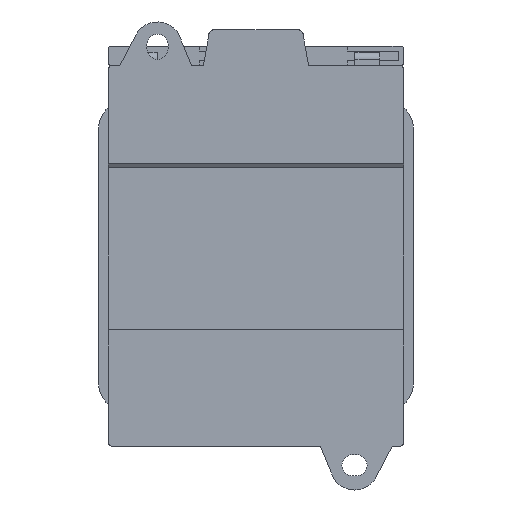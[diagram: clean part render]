
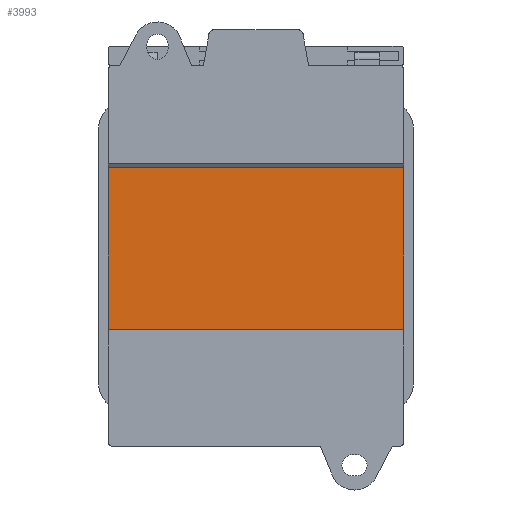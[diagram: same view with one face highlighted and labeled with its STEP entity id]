
A CAD part, front view. The second image highlights one B-rep face of the part: STEP entity #3993.
In plain terms, the highlighted planar face has unit normal (0, -1, 0).
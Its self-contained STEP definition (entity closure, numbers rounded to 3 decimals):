
#183 = CARTESIAN_POINT ( 'NONE',  ( -45., 3.997, 17.9 ) ) ;
#413 = DIRECTION ( 'NONE',  ( 0., 0., 1. ) ) ;
#1257 = DIRECTION ( 'NONE',  ( 0., 0., -1. ) ) ;
#1344 = LINE ( 'NONE', #6277, #7097 ) ;
#1358 = VERTEX_POINT ( 'NONE', #9688 ) ;
#1947 = EDGE_CURVE ( 'NONE', #1358, #9421, #13088, .T. ) ;
#2078 = CARTESIAN_POINT ( 'NONE',  ( -30., 3.997, -17.5 ) ) ;
#2843 = CARTESIAN_POINT ( 'NONE',  ( -45., 3.997, -17.5 ) ) ;
#3200 = LINE ( 'NONE', #2843, #5740 ) ;
#3387 = DIRECTION ( 'NONE',  ( 1., 0., 0. ) ) ;
#3490 = FACE_OUTER_BOUND ( 'NONE', #6907, .T. ) ;
#3993 = ADVANCED_FACE ( 'NONE', ( #3490 ), #5836, .F. ) ;
#4114 = DIRECTION ( 'NONE',  ( 0., 0., -1. ) ) ;
#4125 = VECTOR ( 'NONE', #3387, 1000. ) ;
#4262 = ORIENTED_EDGE ( 'NONE', *, *, #12015, .F. ) ;
#4825 = VECTOR ( 'NONE', #1257, 1000. ) ;
#5740 = VECTOR ( 'NONE', #13593, 1000. ) ;
#5836 = PLANE ( 'NONE',  #10508 ) ;
#6022 = CARTESIAN_POINT ( 'NONE',  ( 30., 3.997, 17.9 ) ) ;
#6277 = CARTESIAN_POINT ( 'NONE',  ( 30., 3.997, 19.2 ) ) ;
#6317 = ORIENTED_EDGE ( 'NONE', *, *, #10483, .T. ) ;
#6907 = EDGE_LOOP ( 'NONE', ( #4262, #12494, #6317, #10446 ) ) ;
#6921 = DIRECTION ( 'NONE',  ( 0., 1., 0. ) ) ;
#7097 = VECTOR ( 'NONE', #4114, 1000. ) ;
#7723 = CARTESIAN_POINT ( 'NONE',  ( -30., 3.997, 19.2 ) ) ;
#9421 = VERTEX_POINT ( 'NONE', #2078 ) ;
#9585 = VERTEX_POINT ( 'NONE', #13176 ) ;
#9688 = CARTESIAN_POINT ( 'NONE',  ( -30., 3.997, 17.9 ) ) ;
#9955 = EDGE_CURVE ( 'NONE', #11653, #9585, #1344, .T. ) ;
#10446 = ORIENTED_EDGE ( 'NONE', *, *, #9955, .F. ) ;
#10483 = EDGE_CURVE ( 'NONE', #9421, #9585, #3200, .T. ) ;
#10508 = AXIS2_PLACEMENT_3D ( 'NONE', #13377, #6921, #413 ) ;
#11653 = VERTEX_POINT ( 'NONE', #6022 ) ;
#12015 = EDGE_CURVE ( 'NONE', #1358, #11653, #12039, .T. ) ;
#12039 = LINE ( 'NONE', #183, #4125 ) ;
#12494 = ORIENTED_EDGE ( 'NONE', *, *, #1947, .T. ) ;
#13088 = LINE ( 'NONE', #7723, #4825 ) ;
#13176 = CARTESIAN_POINT ( 'NONE',  ( 30., 3.997, -17.5 ) ) ;
#13377 = CARTESIAN_POINT ( 'NONE',  ( -45., 3.997, 17.9 ) ) ;
#13593 = DIRECTION ( 'NONE',  ( 1., 0., 0. ) ) ;
